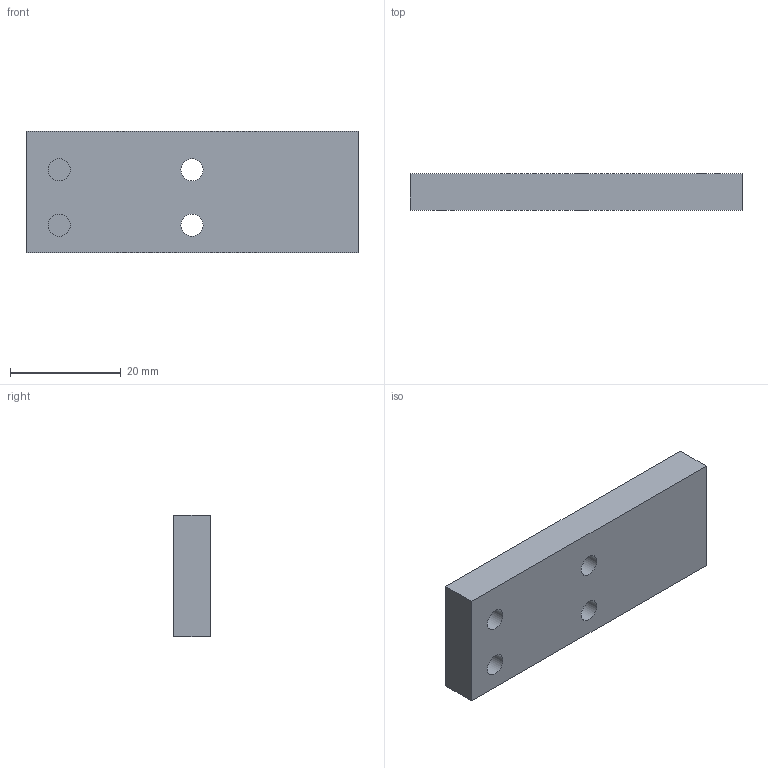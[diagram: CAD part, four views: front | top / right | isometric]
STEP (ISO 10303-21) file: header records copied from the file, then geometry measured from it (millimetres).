
FILE_DESCRIPTION(('Open CASCADE Model'),'2;1');
FILE_NAME('Open CASCADE Shape Model','2026-10-17T23:18:53',('Author'),( 'Open CASCADE'),'Open CASCADE STEP processor 7.9','Open CASCADE 7.9' ,'Unknown');
FILE_SCHEMA(('AUTOMOTIVE_DESIGN { 1 0 10303 214 1 1 1 1 }'));
Length unit declared in the file: millimetre
Products named in the file (1): Open CASCADE STEP translator 7.9 7
Bounding box: 60 x 6.64 x 22 mm (x, y, z)
Volume: 8400.5 mm3; surface area: 4047.2 mm2
Topology: 1 solids, 1 shells, 16 faces, 30 edges, 20 vertices
Faces by surface type: plane 10, cylinder 6
Full cylindrical faces by diameter (mm): 4 x6
Entity records: 838 total; most frequent: CARTESIAN_POINT 175, DIRECTION 128, LINE 66, VECTOR 66, ORIENTED_EDGE 60, PCURVE 60, DEFINITIONAL_REPRESENTATION 60, EDGE_CURVE 30
